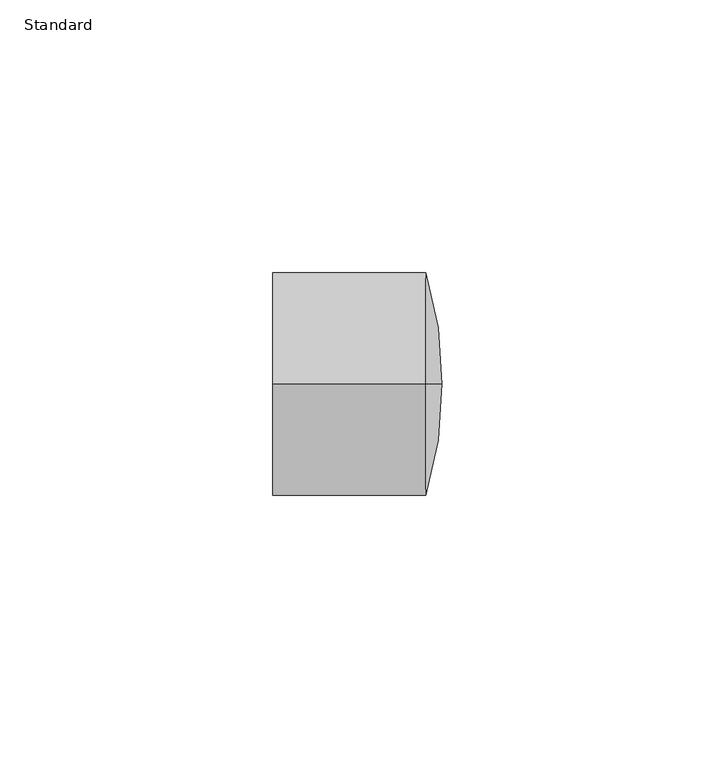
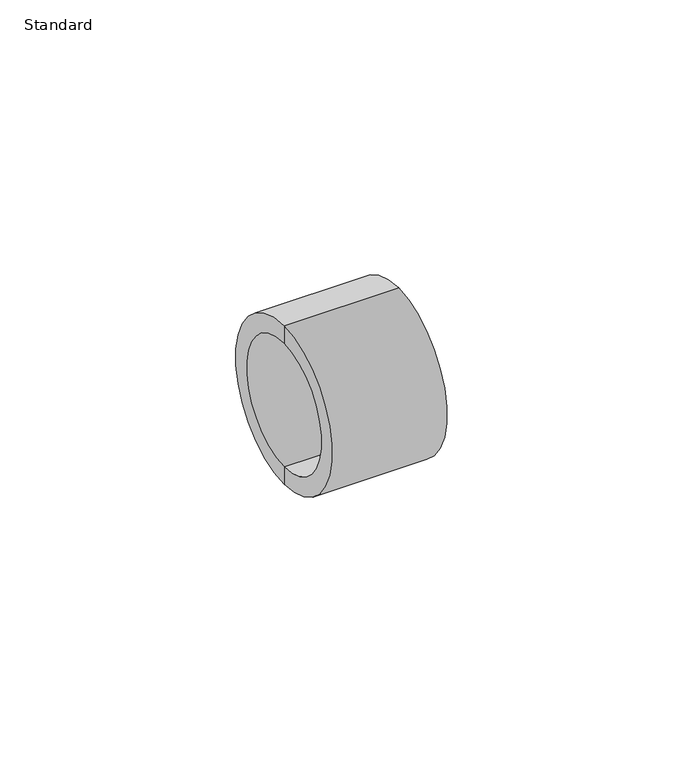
"""IFC4 building model written with IfcOpenShell, lengths in millimetres: pipe fitting geometry, Durapipe_PipeFitting_PVC_Cap : Standard."""

from ifc_helpers import new_model, si_unit, point, frame, origin, place, context, project, spatial, polyline, circle_curve, ellipse_curve, trimmed, source, transform, mapped, element, save
from ifc_brep_helpers import plane_surface, cylinder_surface, revolved_surface, advanced_brep


def standard_19b72cd3(model_context):
    return source(origin(), model_context, "Body", "AdvancedBrep", [
        advanced_brep(
        [(0.0, 0.0, 0.0), (0.0, 0.0, 16.0), (0.0, 0.0, -16.0), (6.0, 0.0, -20.5), (6.0, 0.0, 20.5), (9.0, 0.0, 0.0), (-22.0, 0.0, -20.5), (-22.0, 0.0, 20.5), (-22.0, 0.0, -16.0), (-22.0, 0.0, 16.0)],
        [
            (0, 1),
            (1, 2, circle_curve(frame((0.0, 0.0, 0.0), z_axis=(-1.0, 0.0, 0.0), x_axis=(0.0, 0.0, 1.0)), 16.0)),
            (2, 0),
            (2, 1, circle_curve(frame((0.0, 0.0, 0.0), z_axis=(-1.0, 0.0, 0.0), x_axis=(0.0, 0.0, 1.0)), 16.0)),
            (3, 4, circle_curve(frame((6.0, 0.0, 0.0), z_axis=(1.0, 0.0, 0.0), x_axis=(0.0, 0.0, 1.0)), 20.5)),
            (4, 5, circle_curve(frame((-54.8580832, 0.0, 1.1244268), z_axis=(0.0, 1.0, 0.0), x_axis=(1.0, 0.0, 0.0)), 63.867982)),
            (5, 3, circle_curve(frame((-54.8580832, 0.0, -1.1244268), z_axis=(0.0, 1.0, 0.0), x_axis=(1.0, 0.0, 0.0)), 63.867982)),
            (4, 3, circle_curve(frame((6.0, 0.0, 0.0), z_axis=(1.0, 0.0, 0.0), x_axis=(0.0, 0.0, 1.0)), 20.5)),
            (6, 7, circle_curve(frame((-22.0, 0.0, 0.0), z_axis=(1.0, 0.0, 0.0), x_axis=(0.0, 0.0, 1.0)), 20.5)),
            (7, 4),
            (3, 6),
            (7, 6, circle_curve(frame((-22.0, 0.0, 0.0), z_axis=(1.0, 0.0, 0.0), x_axis=(0.0, 0.0, 1.0)), 20.5)),
            (8, 9, circle_curve(frame((-22.0, 0.0, 0.0), z_axis=(1.0, 0.0, 0.0), x_axis=(0.0, 0.0, 1.0)), 16.0)),
            (9, 7),
            (6, 8),
            (9, 8, circle_curve(frame((-22.0, 0.0, 0.0), z_axis=(1.0, 0.0, 0.0), x_axis=(0.0, 0.0, 1.0)), 16.0)),
            (1, 9),
            (8, 2),
        ],
        [
            plane_surface(frame((0.0, 0.0, 0.0), z_axis=(-1.0, 0.0, 0.0), x_axis=(0.0, 0.0, 1.0))),
            revolved_surface(trimmed(ellipse_curve(frame((-54.8580832, 0.0, 1.1244268), z_axis=(0.0, -1.0, 0.0), x_axis=(1.0, 0.0, 0.0)), 63.867982, 63.867982), [point((9.0, 0.0, 0.0))], [point((6.0, 0.0, 20.5))], True, "CARTESIAN"), (-1521.1299635, 0.0, 0.0), (-1.0, 0.0, 0.0)),
            cylinder_surface(frame((-1521.1299635, 0.0, 0.0), z_axis=(-1.0, 0.0, 0.0), x_axis=(0.0, 0.0, 1.0)), 20.5),
            plane_surface(frame((-22.0, 0.0, 0.0), z_axis=(-1.0, 0.0, 0.0), x_axis=(0.0, 0.0, 1.0))),
            revolved_surface(polyline([(-22.0, 0.0, 16.0), (0.0, 0.0, 16.0)]), (-1521.1299635, 0.0, 0.0), (-1.0, 0.0, 0.0)),
        ],
        [
            (0, [[1, 2, 3]]),
            (0, [[-3, 4, -1]]),
            (1, [[5, 6, 7]]),
            (1, [[8, -7, -6]]),
            (2, [[9, 10, -5, 11]]),
            (2, [[12, -11, -8, -10]]),
            (3, [[13, 14, -9, 15]]),
            (3, [[16, -15, -12, -14]]),
            (4, [[-2, 17, -13, 18]]),
            (4, [[-4, -18, -16, -17]]),
        ],
    ),
    ])


if __name__ == "__main__":
    model = new_model("IFC4")
    model_context = context("Model", 3, world=origin())
    ifc_project = project(units=[si_unit("LENGTHUNIT", "METRE", prefix="MILLI")], contexts=[model_context])
    site = spatial("IfcSite", under=ifc_project)
    building = spatial("IfcBuilding", under=site)
    placement = place(None, origin())
    standard_shape = standard_19b72cd3(model_context)
    element("IfcPipeFitting", 1, ObjectType="Durapipe_PipeFitting_PVC_Cap : Standard", at=placement, inside=building, context=model_context, shape_type="MappedRepresentation", body=[
        mapped(standard_shape, transform((0.0, 0.0, 0.0), x_axis=(1.0, 0.0, 0.0), y_axis=(0.0, 1.0, 0.0), z_axis=(0.0, 0.0, 1.0))),
    ])
    save(model, "model.ifc")
